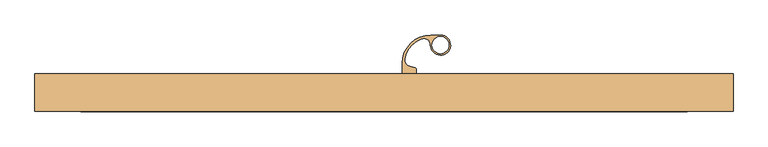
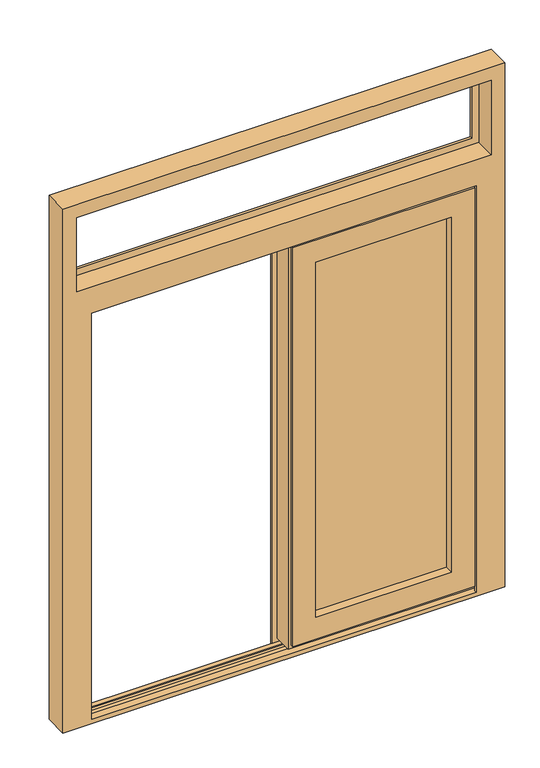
"""IFC4 building model written with IfcOpenShell, lengths in millimetres: door geometry, Dvokrilna vrata s ventusom_ : Dvokrilna vrata s ventusom_."""

from ifc_helpers import new_model, si_unit, point, frame, frame_2d, origin, place, context, project, spatial, polyline, circle_curve, trimmed, segment, composite_curve, outline, extrude, faceted_brep, source, transform, mapped, element, save
from ifc_brep_helpers import plane_surface, cylinder_surface, advanced_brep


def door_779a9718(model_context):
    return source(origin(), model_context, "Body", "SolidModel", [
        extrude(outline(composite_curve([segment(polyline([(46.2896574, 60.0023127), (41.2896574, 60.0023127), (41.2896574, 84.2000749)]), True, "CONTINUOUS"), segment(trimmed(circle_curve(frame_2d((105.2868984, 84.2000749)), 63.997241), [point((41.2896574, 84.2000749))], [point((105.2868984, 148.1973159))], False, "CARTESIAN"), True, "CONTINUOUS"), segment(polyline([(105.2868984, 148.1973159), (128.1908353, 148.1973159)]), True, "CONTINUOUS"), segment(trimmed(circle_curve(frame_2d((127.7723901, 125.2577672)), 22.9433648), [point((128.1908353, 148.1973159))], [point((141.208649, 143.8552115))], False, "CARTESIAN"), True, "CONTINUOUS"), segment(trimmed(circle_curve(frame_2d((127.9142718, 125.4541489)), 22.7010919), [point((141.208649, 143.8552115))], [point((143.0592558, 108.5435301))], False, "CARTESIAN"), True, "CONTINUOUS"), segment(trimmed(circle_curve(frame_2d((127.831476, 125.5465972)), 22.8251959), [point((143.0592558, 108.5435301))], [point((114.46442, 107.0449383))], False, "CARTESIAN"), True, "CONTINUOUS"), segment(trimmed(circle_curve(frame_2d((127.7181672, 125.3897637)), 22.631713), [point((114.46442, 107.0449383))], [point((105.0865345, 125.4500749))], False, "CARTESIAN"), True, "CONTINUOUS"), segment(trimmed(circle_curve(frame_2d((90.0865429, 125.4900485)), 15.0000449), [point((105.0865345, 125.4500749))], [point((84.9186807, 139.5717582))], True, "CARTESIAN"), True, "CONTINUOUS"), segment(trimmed(circle_curve(frame_2d((105.2173201, 84.2607731)), 58.9180773), [point((84.9186807, 139.5717582))], [point((47.2218115, 94.6463788))], True, "CARTESIAN"), True, "CONTINUOUS"), segment(trimmed(circle_curve(frame_2d((61.9366787, 91.7159911)), 15.0038159), [point((47.2218115, 94.6463788))], [point((58.0534054, 77.2234179))], True, "CARTESIAN"), True, "CONTINUOUS"), segment(polyline([(58.0534054, 77.2234179), (69.5837526, 74.1338707)]), True, "CONTINUOUS"), segment(trimmed(circle_curve(frame_2d((68.2896574, 69.3042415)), 5.0), [point((69.5837526, 74.1338707))], [point((73.2896574, 69.3042415))], False, "CARTESIAN"), True, "CONTINUOUS"), segment(polyline([(73.2896574, 69.3042415), (73.2896574, 60.0023127), (46.2896574, 60.0023127)]), True, "CONTINUOUS")], self_intersect=False), holes=[composite_curve([segment(trimmed(circle_curve(frame_2d((127.8365345, 125.4500749)), 19.25), [point((108.5865345, 125.4500749))], [point((147.0865345, 125.4500749))], True, "CARTESIAN"), True, "CONTINUOUS"), segment(trimmed(circle_curve(frame_2d((127.8365345, 125.4500749)), 19.25), [point((147.0865345, 125.4500749))], [point((108.5865345, 125.4500749))], True, "CARTESIAN"), True, "CONTINUOUS")], self_intersect=False)]), frame((0.0, 0.0, 285.3), z_axis=(0.0, 0.0, 1.0), x_axis=(1.0, 0.0, 0.0)), (0.0, 0.0, 1.0), 50.0),
        extrude(outline(polyline([(99.4896574, 50.5064883), (613.5103426, 50.5064883), (613.5103426, 6.5064883), (99.4896574, 6.5064883), (99.4896574, 50.5064883)])), frame((0.0, 0.0, 85.4896574), z_axis=(0.0, 0.0, 1.0), x_axis=(1.0, 0.0, 0.0)), (0.0, 0.0, 1.0), 1434.0206852),
        faceted_brep([(598.5077577, 60.0023127, 1473.0077577), (598.5077577, 60.0023127, 131.9922423), (598.5077577, 50.5064883, 131.9922423), (598.5077577, 50.5064883, 1473.0077577), (710.5034819, 60.0023127, 19.9965181), (2.4965181, 60.0023127, 19.9965181), (2.4965181, 60.0023127, 1585.0034819), (710.5034819, 60.0023127, 1585.0034819), (114.4922423, 60.0023127, 1473.0077577), (114.4922423, 60.0023127, 131.9922423), (114.4922423, 50.5064883, 131.9922423), (613.5103426, 50.5064883, 1488.0103426), (99.4896574, 50.5064883, 1488.0103426), (99.4896574, 50.5064883, 116.9896574), (613.5103426, 50.5064883, 116.9896574), (114.4922423, 50.5064883, 1473.0077577), (613.5103426, 6.5064883, 1488.0103426), (613.5103426, 6.5064883, 116.9896574), (99.4896574, 6.5064883, 116.9896574), (99.4896574, 6.5064883, 1488.0103426), (598.5079287, 6.5064883, 1473.0079287), (114.4920713, 6.5064883, 1473.0079287), (114.4920713, 6.5064883, 131.9920713), (598.5079287, 6.5064883, 131.9920713), (598.5079287, -25.0002504, 1473.0079287), (598.5079287, -25.0002504, 131.9920713), (114.4920713, -25.0002504, 131.9920713), (681.5095093, -25.0002504, 1556.0095093), (31.4904907, -25.0002504, 1556.0095093), (31.4904907, -25.0002504, 48.9904907), (681.5095093, -25.0002504, 48.9904907), (114.4920713, -25.0002504, 1473.0079287), (681.5095093, -16.5001664, 1556.0095093), (681.5095093, -16.5001664, 48.9904907), (31.4904907, -16.5001664, 48.9904907), (692.906518, -16.5001664, 1567.406518), (20.093482, -16.5001664, 1567.406518), (20.093482, -16.5001664, 37.593482), (692.906518, -16.5001664, 37.593482), (31.4904907, -16.5001664, 1556.0095093), (692.906518, 51.4915497, 1567.406518), (692.906518, 51.4915497, 37.593482), (20.093482, 51.4915497, 37.593482), (710.5034819, 51.4915497, 1585.0034819), (2.4965181, 51.4915497, 1585.0034819), (2.4965181, 51.4915497, 19.9965181), (710.5034819, 51.4915497, 19.9965181), (20.093482, 51.4915497, 1567.406518)], [[[0, 1, 2, 3]], [[4, 5, 6, 7], [0, 8, 9, 1]], [[2, 1, 9, 10]], [[11, 12, 13, 14], [2, 10, 15, 3]], [[16, 11, 14, 17]], [[17, 14, 13, 18]], [[17, 18, 19, 16], [20, 21, 22, 23]], [[24, 20, 23, 25]], [[25, 23, 22, 26]], [[27, 28, 29, 30], [25, 26, 31, 24]], [[32, 27, 30, 33]], [[33, 30, 29, 34]], [[35, 36, 37, 38], [33, 34, 39, 32]], [[40, 35, 38, 41]], [[41, 38, 37, 42]], [[43, 44, 45, 46], [41, 42, 47, 40]], [[7, 43, 46, 4]], [[4, 46, 45, 5]], [[10, 9, 8, 15]], [[18, 13, 12, 19]], [[26, 22, 21, 31]], [[34, 29, 28, 39]], [[42, 37, 36, 47]], [[5, 45, 44, 6]], [[15, 8, 0, 3]], [[19, 12, 11, 16]], [[31, 21, 20, 24]], [[39, 28, 27, 32]], [[47, 36, 35, 40]], [[6, 44, 43, 7]]]),
        advanced_brep(
        [(715.5001823, 51.5068016, 10.0), (715.5001823, 60.0023127, 10.0), (790.0, 60.0023127, 10.0), (790.0, -25.0, 10.0), (-790.0, -25.0, 10.0), (-790.0, 60.0023127, 10.0), (-715.5001823, 60.0023127, 10.0), (-715.5001823, 51.5068016, 10.0), (715.5, 51.4916038, 1915.5), (715.5, 60.0023127, 1915.5), (715.5, 51.5068016, 1590.0), (715.5, 59.5034493, 1589.9958248), (715.5, 59.5034493, 1684.9958248), (715.5, 51.4916038, 1684.9958248), (-790.0, 60.0023127, 1990.0), (790.0, 60.0023127, 1990.0), (-715.5, 60.0023127, 1915.5), (790.0, -25.0014886, 1990.0), (-790.0, -25.0, 1990.0), (686.5959968, -25.0, 1561.09), (686.5959968, -25.0, 25.5020089), (-686.5959968, -25.0, 25.5020089), (-686.5959968, -25.0, 1561.09), (-740.4974913, -25.0, 1940.4974913), (740.4974913, -25.0, 1940.4974913), (740.4974913, -25.0, 1659.9940703), (-740.4974913, -25.0, 1659.9940703), (-715.5001823, 51.5068016, 1590.0), (-715.5001823, 51.4916038, 1915.5), (-715.5001823, 51.4916038, 1684.9958248), (-715.5001823, 59.5034493, 1684.9958248), (-715.5001823, 59.5034493, 1589.9958248), (-700.0959967, 51.5068016, 1574.589999), (-700.0959967, 51.5068016, 25.5020089), (700.0959967, 51.5068016, 25.5020089), (700.0959967, 51.5068016, 1574.589999), (-700.0959967, -16.5028834, 1574.589999), (-700.0959967, -16.5028834, 25.5020089), (-700.0959967, 2.5534255, 25.5020089), (-700.0959967, 12.6811663, 29.5820648), (-700.0959967, 23.2837038, 29.7334181), (-700.0959967, 34.7185189, 25.5020089), (700.0959967, 34.7185189, 25.5020089), (700.0959967, -16.5028834, 1574.589999), (700.0959967, 23.2837038, 29.7334181), (700.0959967, 12.6811663, 29.5820648), (700.0959967, 2.5534255, 25.5020089), (700.0959967, -16.5028834, 25.5020089), (686.5959968, -16.5028834, 1561.09), (686.5959968, -16.5028834, 25.5020089), (-686.5959968, -16.5028834, 25.5020089), (-686.5959968, -16.5028834, 1561.09), (740.4974913, 51.4916038, 1940.4974913), (-740.4974913, 51.4916038, 1940.4974913), (-740.4974913, 51.4916038, 1659.9940703), (740.4974913, 51.4916038, 1659.9940703)],
        [
            (0, 1),
            (1, 2),
            (2, 3),
            (3, 4),
            (4, 5),
            (5, 6),
            (6, 7),
            (7, 0),
            (8, 9),
            (9, 1),
            (0, 10),
            (10, 11),
            (11, 12),
            (12, 13),
            (13, 8),
            (5, 14),
            (14, 15),
            (15, 2),
            (9, 16),
            (16, 6),
            (15, 17),
            (17, 3),
            (17, 18),
            (18, 4),
            (19, 20),
            (20, 21),
            (21, 22),
            (22, 19),
            (23, 24),
            (24, 25),
            (25, 26),
            (26, 23),
            (18, 14),
            (27, 7),
            (16, 28),
            (28, 29),
            (29, 30),
            (30, 31),
            (31, 27),
            (27, 10),
            (32, 33),
            (33, 34),
            (34, 35),
            (35, 32),
            (32, 36),
            (36, 37),
            (37, 38),
            (38, 39),
            (39, 40, circle_curve(frame((-700.0959967, 18.1783048, 15.936763), z_axis=(-1.0, 0.0, 0.0), x_axis=(0.0, -0.3736760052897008, 0.9275592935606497)), 14.7109752)),
            (40, 41),
            (41, 33),
            (41, 42),
            (42, 34),
            (43, 35),
            (42, 44),
            (44, 45, circle_curve(frame((700.0959967, 18.1783048, 15.936763), z_axis=(1.0, 0.0, 0.0), x_axis=(0.0, -0.3736760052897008, 0.9275592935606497)), 14.7109752)),
            (45, 46),
            (46, 47),
            (47, 43),
            (19, 48),
            (48, 49),
            (49, 20),
            (49, 47),
            (46, 38),
            (37, 50),
            (50, 21),
            (51, 22),
            (50, 51),
            (48, 51),
            (36, 43),
            (45, 39),
            (44, 40),
            (52, 53),
            (53, 54),
            (54, 55),
            (55, 52),
            (28, 8),
            (13, 29),
            (53, 23),
            (26, 54),
            (52, 24),
            (55, 25),
            (12, 30),
            (11, 31),
        ],
        [
            plane_surface(frame((-790.0, -25.0, 10.0), z_axis=(0.0, 0.0, -1.0), x_axis=(0.0, -1.0, 0.0))),
            plane_surface(frame((715.5, 60.0023127, 1915.5), z_axis=(-1.0, 0.0, 0.0), x_axis=(0.0, 0.0, -1.0))),
            plane_surface(frame((-715.5001823, 60.0023127, 1590.0), z_axis=(0.0, 1.0, 0.0), x_axis=(0.0, 0.0, -1.0))),
            plane_surface(frame((790.0, -25.0014886, 1990.0), z_axis=(1.0, 0.0, 0.0), x_axis=(0.0, 0.0, -1.0))),
            plane_surface(frame((-790.0, -25.0, 1590.0), z_axis=(0.0, -1.0, 0.0), x_axis=(0.0, 0.0, -1.0))),
            plane_surface(frame((-790.0, 60.0023127, 1590.0), z_axis=(-1.0, 0.0, 0.0), x_axis=(0.0, 0.0, -1.0))),
            plane_surface(frame((-715.5001823, 51.5068016, 1590.0), z_axis=(1.0, 0.0, 0.0), x_axis=(0.0, 0.0, -1.0))),
            plane_surface(frame((-705.6793966, 51.5068016, 1590.0), z_axis=(0.0, 1.0, 0.0), x_axis=(0.0, 0.0, -1.0))),
            plane_surface(frame((-700.0959967, -16.5028834, 1590.0), z_axis=(1.0, 0.0, 0.0), x_axis=(0.0, 0.0, -1.0))),
            plane_surface(frame((-790.0, 34.7185189, 25.5020089), z_axis=(0.0, 0.0, 1.0), x_axis=(1.0, 0.0, 0.0))),
            plane_surface(frame((700.0959967, 51.5068016, 1590.0), z_axis=(-1.0, 0.0, 0.0), x_axis=(0.0, 0.0, -1.0))),
            plane_surface(frame((686.5959968, -16.5028834, 1590.0), z_axis=(-1.0, 0.0, 0.0), x_axis=(0.0, 0.0, -1.0))),
            plane_surface(frame((-790.0, -25.0, 25.5020089), z_axis=(0.0, 0.0, 1.0), x_axis=(1.0, 0.0, 0.0))),
            plane_surface(frame((-686.5959968, -25.0, 1590.0), z_axis=(1.0, 0.0, 0.0), x_axis=(0.0, 0.0, -1.0))),
            plane_surface(frame((-686.5959968, -16.5028834, 1590.0), z_axis=(0.0, 1.0, 0.0), x_axis=(0.0, 0.0, -1.0))),
            plane_surface(frame((-790.0, 2.5534255, 25.5020089), z_axis=(0.0, -0.3736760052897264, 0.9275592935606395), x_axis=(1.0, 0.0, 0.0))),
            cylinder_surface(frame((-790.0, 18.1783048, 15.936763), z_axis=(-1.0, 0.0, 0.0), x_axis=(0.0, -0.3736760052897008, 0.9275592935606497)), 14.7109752),
            plane_surface(frame((-790.0, 23.2837038, 29.7334181), z_axis=(0.0, 0.347046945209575, 0.9378477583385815), x_axis=(1.0, 0.0, 0.0))),
            plane_surface(frame((-715.5, 51.4916038, 1590.0), z_axis=(0.0, -1.0, 0.0), x_axis=(0.0, 0.0, 1.0))),
            plane_surface(frame((-740.4974913, 51.4916038, 1590.0), z_axis=(1.0, 0.0, 0.0), x_axis=(0.0, 0.0, 1.0))),
            plane_surface(frame((-715.5, 60.0023127, 1915.5), z_axis=(0.0, 0.0, -1.0), x_axis=(1.0, 0.0, 0.0))),
            plane_surface(frame((-740.4974913, 51.4916038, 1940.4974913), z_axis=(0.0, 0.0, -1.0), x_axis=(1.0, 0.0, 0.0))),
            plane_surface(frame((-790.0, -25.0014886, 1990.0), z_axis=(0.0, 0.0, 1.0), x_axis=(1.0, 0.0, 0.0))),
            plane_surface(frame((740.4974913, 51.4916038, 1940.4974913), z_axis=(-1.0, 0.0, 0.0), x_axis=(0.0, 0.0, -1.0))),
            plane_surface(frame((-790.0, 51.5034493, 1684.9958248), z_axis=(0.0, 0.0, 1.0), x_axis=(1.0, 0.0, 0.0))),
            plane_surface(frame((-790.0, 59.5034493, 1684.9958248), z_axis=(0.0, 1.0, 0.0), x_axis=(1.0, 0.0, 0.0))),
            plane_surface(frame((-790.0, 59.5034493, 1589.9958248), z_axis=(0.0, 0.0, -1.0), x_axis=(1.0, 0.0, 0.0))),
            plane_surface(frame((-790.0, 51.5057208, 1574.589999), z_axis=(0.0, 0.0, -1.0), x_axis=(1.0, 0.0, 0.0))),
            plane_surface(frame((-790.0, -16.5038834, 1561.09), z_axis=(0.0, 0.0, -1.0), x_axis=(1.0, 0.0, 0.0))),
            plane_surface(frame((-790.0, -25.0, 1659.9940703), z_axis=(0.0, 0.0, 1.0), x_axis=(1.0, 0.0, 0.0))),
        ],
        [
            (0, [[1, 2, 3, 4, 5, 6, 7, 8]]),
            (1, [[9, 10, -1, 11, 12, 13, 14, 15]]),
            (2, [[-6, 16, 17, 18, -2, -10, 19, 20]]),
            (3, [[21, 22, -3, -18]]),
            (4, [[-4, -22, 23, 24], [25, 26, 27, 28], [29, 30, 31, 32]]),
            (5, [[-24, 33, -16, -5]]),
            (6, [[34, -7, -20, 35, 36, 37, 38, 39]]),
            (7, [[-8, -34, 40, -11], [41, 42, 43, 44]]),
            (8, [[45, 46, 47, 48, 49, 50, 51, -41]]),
            (9, [[-42, -51, 52, 53]]),
            (10, [[54, -43, -53, 55, 56, 57, 58, 59]]),
            (11, [[60, 61, 62, -25]]),
            (12, [[-26, -62, 63, -58, 64, -47, 65, 66]]),
            (13, [[67, -27, -66, 68]]),
            (14, [[69, -68, -65, -46, 70, -59, -63, -61]]),
            (15, [[-64, -57, 71, -48]]),
            (16, [[72, -49, -71, -56]]),
            (17, [[-72, -55, -52, -50]]),
            (18, [[73, 74, 75, 76], [77, -15, 78, -36]]),
            (19, [[79, -32, 80, -74]]),
            (20, [[-35, -19, -9, -77]]),
            (21, [[-73, 81, -29, -79]]),
            (22, [[-23, -21, -17, -33]]),
            (23, [[-81, -76, 82, -30]]),
            (24, [[-78, -14, 83, -37]]),
            (25, [[-83, -13, 84, -38]]),
            (26, [[-84, -12, -40, -39]]),
            (27, [[-44, -54, -70, -45]]),
            (28, [[-28, -67, -69, -60]]),
            (29, [[-31, -82, -75, -80]]),
        ],
    ),
    ])


if __name__ == "__main__":
    model = new_model("IFC4")
    model_context = context("Model", 3, world=origin())
    ifc_project = project(units=[si_unit("LENGTHUNIT", "METRE", prefix="MILLI")], contexts=[model_context])
    site = spatial("IfcSite", under=ifc_project)
    building = spatial("IfcBuilding", under=site)
    placement = place(None, origin())
    door_shape = door_779a9718(model_context)
    element("IfcDoor", 1, ObjectType="Dvokrilna vrata s ventusom_ : Dvokrilna vrata s ventusom_", at=placement, inside=building, context=model_context, shape_type="MappedRepresentation", body=[
        mapped(door_shape, transform((0.0, 0.0, 0.0), x_axis=(1.0, 0.0, 0.0), y_axis=(0.0, 1.0, 0.0), z_axis=(0.0, 0.0, 1.0))),
    ])
    save(model, "model.ifc")
